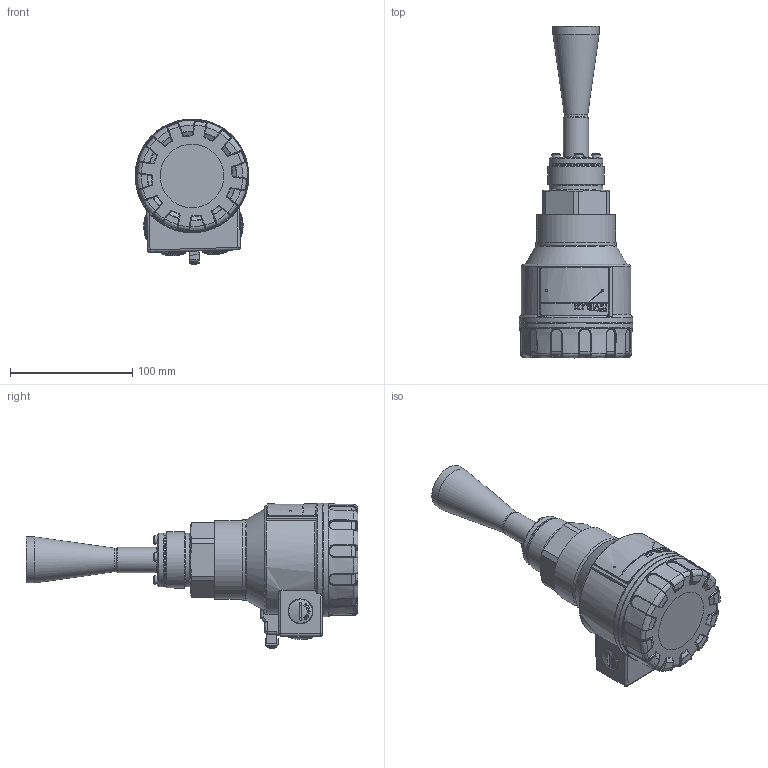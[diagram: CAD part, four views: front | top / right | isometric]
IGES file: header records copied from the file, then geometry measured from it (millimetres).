
Global section: file name: WES_140_Mű,; native system: Autodesk Inventor 2015; preprocessor: unknown; author: aantal; date: 20150306.114226; units: millimetre
Bounding box: 92.99 x 271.6 x 119.23 mm (x, y, z)
Volume: 878683 mm3; surface area: 116688.2 mm2
Topology: 16 solids, 17 shells, 1343 faces, 3349 edges, 2082 vertices
Faces by surface type: bspline 1343
